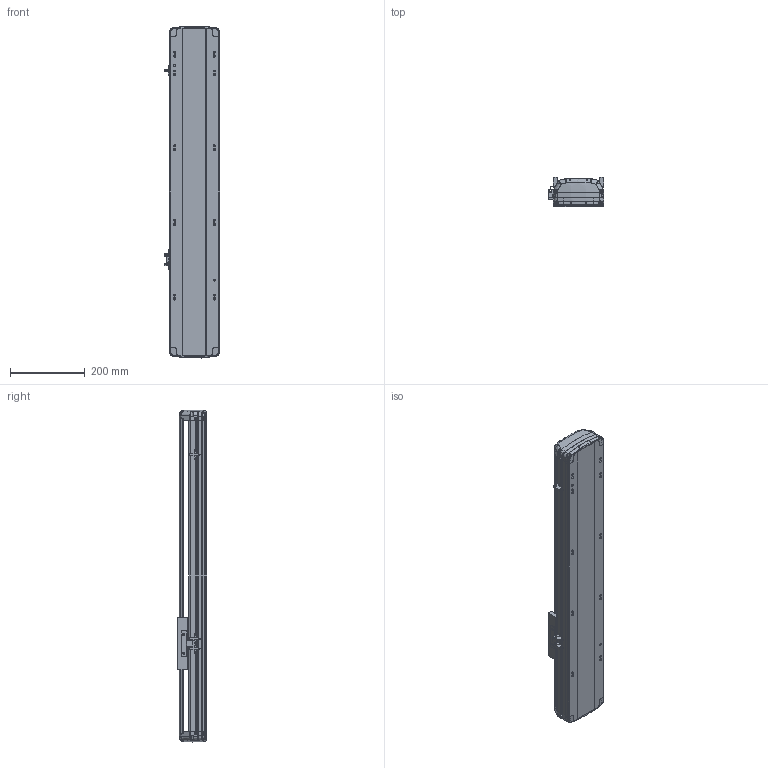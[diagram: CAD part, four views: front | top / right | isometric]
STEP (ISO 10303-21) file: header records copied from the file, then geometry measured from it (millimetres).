
FILE_DESCRIPTION (( 'STEP AP214' ), '1' );
FILE_NAME ('RTH14-XX-500-B-M20-C4.STEP', '2025-10-25T02:20:51', ( 'Microsoft' ), ( 'Microsoft' ), 'SwSTEP 2.0', 'SolidWorks 2018', '' );
FILE_SCHEMA (( 'AUTOMOTIVE_DESIGN' ));
Length unit declared in the file: millimetre
Products named in the file (7): N_RTH14-B-011P菁釱^RTH14-XX-XX-B-M20-C4; N_RTH14-GY-001P^RTH14-XX-XX-B-M20-C4; N_RTH14-R-004-SFSR16賑釱^RTH14-XX-XX-B-M20-C4; N_OMRON EE-SX672 传感器^RTH14-XX-XX-B-M20-C4; N_RTH13-L-012感应片（外置）^RTH14-XX-XX-B-M20-C4; N_RTH14-B-007奻裔^RTH14-XX-XX-B-M20-C4; RTH14-XX-500-B-M20-C4
Assembly tree (9 placements, depth 2):
  RTH14-XX-500-B-M20-C4
    N_RTH14-B-011P菁釱^RTH14-XX-XX-B-M20-C4
    N_RTH14-B-007奻裔^RTH14-XX-XX-B-M20-C4
    N_RTH13-L-012感应片（外置）^RTH14-XX-XX-B-M20-C4
    N_OMRON EE-SX672 传感器^RTH14-XX-XX-B-M20-C4  x3
    N_RTH14-R-004-SFSR16賑釱^RTH14-XX-XX-B-M20-C4
    N_RTH14-GY-001P^RTH14-XX-XX-B-M20-C4  x2
Bounding box: 148.5 x 78.03 x 888.74 mm (x, y, z)
Volume: 3712721.8 mm3; surface area: 864330.9 mm2
Topology: 9 solids, 9 shells, 1918 faces, 5404 edges, 3518 vertices
Faces by surface type: plane 979, bspline 450, cylinder 425, cone 56, torus 8
Entity records: 46660 total; most frequent: CARTESIAN_POINT 20866, ORIENTED_EDGE 5824, DIRECTION 4275, EDGE_CURVE 2912, VERTEX_POINT 1904, VECTOR 1639, LINE 1639, AXIS2_PLACEMENT_3D 1318
